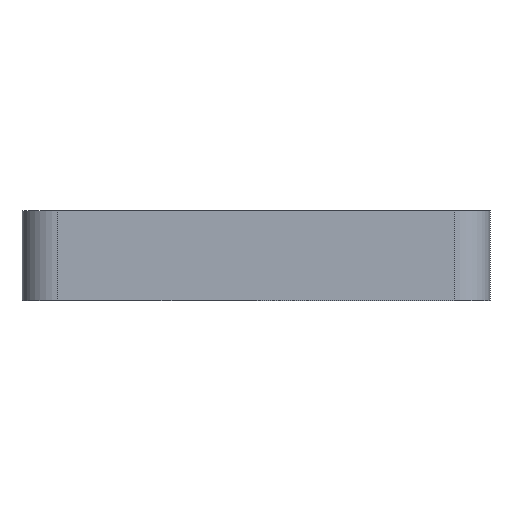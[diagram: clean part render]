
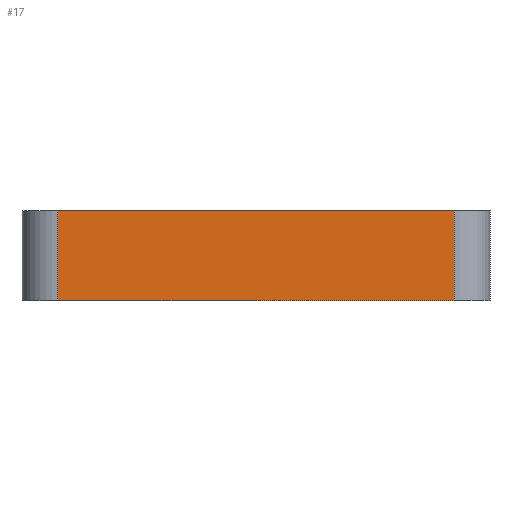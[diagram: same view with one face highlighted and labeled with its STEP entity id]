
A CAD part, left-side view. The second image highlights one B-rep face of the part: STEP entity #17.
In plain terms, the highlighted planar face has unit normal (-1, 0, 0).
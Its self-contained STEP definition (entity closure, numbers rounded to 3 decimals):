
#17 = ADVANCED_FACE('',(#18),#32,.F.);
#18 = FACE_BOUND('',#19,.F.);
#19 = EDGE_LOOP('',(#20,#55,#83,#111));
#20 = ORIENTED_EDGE('',*,*,#21,.F.);
#21 = EDGE_CURVE('',#22,#24,#26,.T.);
#22 = VERTEX_POINT('',#23);
#23 = CARTESIAN_POINT('',(-11.71,6.77,1.));
#24 = VERTEX_POINT('',#25);
#25 = CARTESIAN_POINT('',(-11.71,11.17,1.));
#26 = SURFACE_CURVE('',#27,(#31,#43),.PCURVE_S1.);
#27 = LINE('',#28,#29);
#28 = CARTESIAN_POINT('',(-11.71,6.37,1.));
#29 = VECTOR('',#30,1.);
#30 = DIRECTION('',(0.,1.,0.));
#31 = PCURVE('',#32,#37);
#32 = PLANE('',#33);
#33 = AXIS2_PLACEMENT_3D('',#34,#35,#36);
#34 = CARTESIAN_POINT('',(-11.71,6.37,0.));
#35 = DIRECTION('',(1.,0.,0.));
#36 = DIRECTION('',(0.,0.,1.));
#37 = DEFINITIONAL_REPRESENTATION('',(#38),#42);
#38 = LINE('',#39,#40);
#39 = CARTESIAN_POINT('',(1.,0.));
#40 = VECTOR('',#41,1.);
#41 = DIRECTION('',(0.,-1.));
#42 = ( GEOMETRIC_REPRESENTATION_CONTEXT(2) 
PARAMETRIC_REPRESENTATION_CONTEXT() REPRESENTATION_CONTEXT('2D SPACE',''
  ) );
#43 = PCURVE('',#44,#49);
#44 = PLANE('',#45);
#45 = AXIS2_PLACEMENT_3D('',#46,#47,#48);
#46 = CARTESIAN_POINT('',(-11.71,6.37,1.));
#47 = DIRECTION('',(0.,0.,1.));
#48 = DIRECTION('',(1.,0.,0.));
#49 = DEFINITIONAL_REPRESENTATION('',(#50),#54);
#50 = LINE('',#51,#52);
#51 = CARTESIAN_POINT('',(0.,0.));
#52 = VECTOR('',#53,1.);
#53 = DIRECTION('',(0.,1.));
#54 = ( GEOMETRIC_REPRESENTATION_CONTEXT(2) 
PARAMETRIC_REPRESENTATION_CONTEXT() REPRESENTATION_CONTEXT('2D SPACE',''
  ) );
#55 = ORIENTED_EDGE('',*,*,#56,.F.);
#56 = EDGE_CURVE('',#57,#22,#59,.T.);
#57 = VERTEX_POINT('',#58);
#58 = CARTESIAN_POINT('',(-11.71,6.77,0.));
#59 = SURFACE_CURVE('',#60,(#64,#71),.PCURVE_S1.);
#60 = LINE('',#61,#62);
#61 = CARTESIAN_POINT('',(-11.71,6.77,0.));
#62 = VECTOR('',#63,1.);
#63 = DIRECTION('',(0.,0.,1.));
#64 = PCURVE('',#32,#65);
#65 = DEFINITIONAL_REPRESENTATION('',(#66),#70);
#66 = LINE('',#67,#68);
#67 = CARTESIAN_POINT('',(0.,-0.4));
#68 = VECTOR('',#69,1.);
#69 = DIRECTION('',(1.,0.));
#70 = ( GEOMETRIC_REPRESENTATION_CONTEXT(2) 
PARAMETRIC_REPRESENTATION_CONTEXT() REPRESENTATION_CONTEXT('2D SPACE',''
  ) );
#71 = PCURVE('',#72,#77);
#72 = CYLINDRICAL_SURFACE('',#73,0.4);
#73 = AXIS2_PLACEMENT_3D('',#74,#75,#76);
#74 = CARTESIAN_POINT('',(-11.31,6.77,0.));
#75 = DIRECTION('',(0.,0.,1.));
#76 = DIRECTION('',(-1.,-0.,0.));
#77 = DEFINITIONAL_REPRESENTATION('',(#78),#82);
#78 = LINE('',#79,#80);
#79 = CARTESIAN_POINT('',(0.,0.));
#80 = VECTOR('',#81,1.);
#81 = DIRECTION('',(0.,1.));
#82 = ( GEOMETRIC_REPRESENTATION_CONTEXT(2) 
PARAMETRIC_REPRESENTATION_CONTEXT() REPRESENTATION_CONTEXT('2D SPACE',''
  ) );
#83 = ORIENTED_EDGE('',*,*,#84,.T.);
#84 = EDGE_CURVE('',#57,#85,#87,.T.);
#85 = VERTEX_POINT('',#86);
#86 = CARTESIAN_POINT('',(-11.71,11.17,0.));
#87 = SURFACE_CURVE('',#88,(#92,#99),.PCURVE_S1.);
#88 = LINE('',#89,#90);
#89 = CARTESIAN_POINT('',(-11.71,6.37,0.));
#90 = VECTOR('',#91,1.);
#91 = DIRECTION('',(0.,1.,0.));
#92 = PCURVE('',#32,#93);
#93 = DEFINITIONAL_REPRESENTATION('',(#94),#98);
#94 = LINE('',#95,#96);
#95 = CARTESIAN_POINT('',(0.,0.));
#96 = VECTOR('',#97,1.);
#97 = DIRECTION('',(0.,-1.));
#98 = ( GEOMETRIC_REPRESENTATION_CONTEXT(2) 
PARAMETRIC_REPRESENTATION_CONTEXT() REPRESENTATION_CONTEXT('2D SPACE',''
  ) );
#99 = PCURVE('',#100,#105);
#100 = PLANE('',#101);
#101 = AXIS2_PLACEMENT_3D('',#102,#103,#104);
#102 = CARTESIAN_POINT('',(-11.71,6.37,0.));
#103 = DIRECTION('',(0.,0.,1.));
#104 = DIRECTION('',(1.,0.,0.));
#105 = DEFINITIONAL_REPRESENTATION('',(#106),#110);
#106 = LINE('',#107,#108);
#107 = CARTESIAN_POINT('',(0.,0.));
#108 = VECTOR('',#109,1.);
#109 = DIRECTION('',(0.,1.));
#110 = ( GEOMETRIC_REPRESENTATION_CONTEXT(2) 
PARAMETRIC_REPRESENTATION_CONTEXT() REPRESENTATION_CONTEXT('2D SPACE',''
  ) );
#111 = ORIENTED_EDGE('',*,*,#112,.T.);
#112 = EDGE_CURVE('',#85,#24,#113,.T.);
#113 = SURFACE_CURVE('',#114,(#118,#125),.PCURVE_S1.);
#114 = LINE('',#115,#116);
#115 = CARTESIAN_POINT('',(-11.71,11.17,0.));
#116 = VECTOR('',#117,1.);
#117 = DIRECTION('',(0.,0.,1.));
#118 = PCURVE('',#32,#119);
#119 = DEFINITIONAL_REPRESENTATION('',(#120),#124);
#120 = LINE('',#121,#122);
#121 = CARTESIAN_POINT('',(0.,-4.8));
#122 = VECTOR('',#123,1.);
#123 = DIRECTION('',(1.,0.));
#124 = ( GEOMETRIC_REPRESENTATION_CONTEXT(2) 
PARAMETRIC_REPRESENTATION_CONTEXT() REPRESENTATION_CONTEXT('2D SPACE',''
  ) );
#125 = PCURVE('',#126,#131);
#126 = CYLINDRICAL_SURFACE('',#127,0.4);
#127 = AXIS2_PLACEMENT_3D('',#128,#129,#130);
#128 = CARTESIAN_POINT('',(-11.31,11.17,0.));
#129 = DIRECTION('',(0.,0.,1.));
#130 = DIRECTION('',(-1.,-0.,0.));
#131 = DEFINITIONAL_REPRESENTATION('',(#132),#136);
#132 = LINE('',#133,#134);
#133 = CARTESIAN_POINT('',(-0.,0.));
#134 = VECTOR('',#135,1.);
#135 = DIRECTION('',(-0.,1.));
#136 = ( GEOMETRIC_REPRESENTATION_CONTEXT(2) 
PARAMETRIC_REPRESENTATION_CONTEXT() REPRESENTATION_CONTEXT('2D SPACE',''
  ) );
